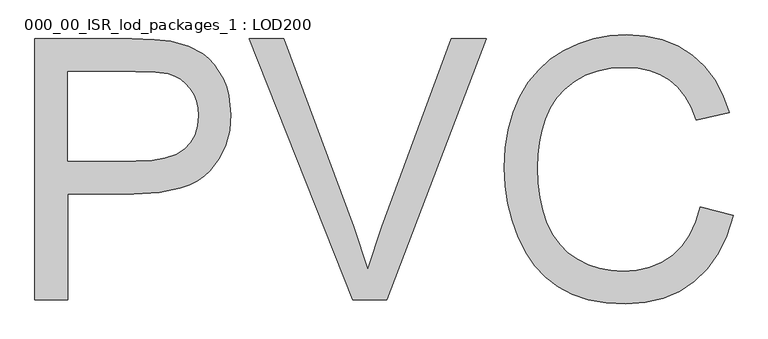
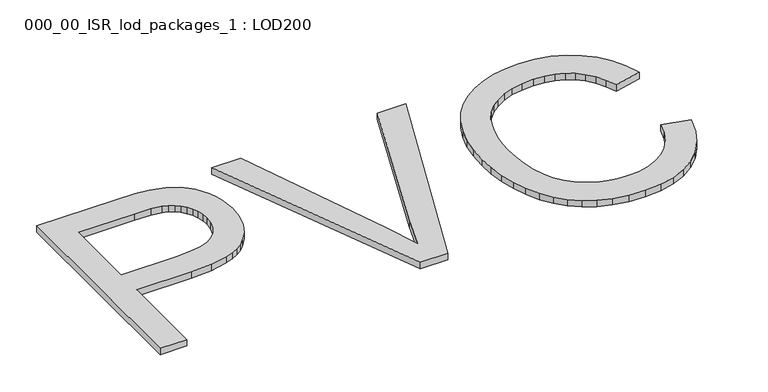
"""IFC4 building model written with IfcOpenShell, lengths in millimetres: proxy geometry, 000_00_ISR_lod_packages_1 : LOD200."""

from ifc_helpers import new_model, si_unit, origin, origin_with_axes, place, context, project, spatial, polyline, outline, extrude, source, transform, mapped, element, save


def proxy_000_00_isr_lod_packages_1_lod200_f037c82a(model_context):
    return source(origin(), model_context, "Body", "SweptSolid", [
        extrude(outline(polyline([(587.4331389, 500.0), (587.4331389, 1299.3886983), (883.6909621, 1299.3886983), (952.6811733, 1297.4858566), (1003.1308751, 1291.7773313), (1056.3860487, 1277.554809), (1100.2245952, 1254.4035677), (1118.8321919, 1239.2174268), (1135.5247492, 1221.274605), (1163.1647454, 1177.1189182), (1173.5815842, 1151.6806075), (1181.0221833, 1125.0347241), (1186.9746626, 1068.1202395), (1182.9555193, 1019.0488782), (1170.8980894, 973.9051774), (1150.8023728, 932.6891372), (1122.6683696, 895.4007575), (1104.974076, 878.842375), (1084.0443414, 864.4917768), (1059.879166, 852.3489629), (1032.4785498, 842.4139334), (967.9709947, 829.1672274), (890.5216761, 824.7516587), (687.3567262, 824.7516587), (687.3567262, 500.0), (587.4331389, 500.0)]), holes=[polyline([(687.3567262, 924.675246), (896.3765738, 924.675246), (944.4355257, 926.9684143), (984.9806922, 933.847919), (1018.0120734, 945.3137604), (1043.5296692, 961.3659382), (1062.5702844, 981.5775329), (1076.1707238, 1005.521625), (1084.3309875, 1033.1982143), (1087.0510753, 1064.6073009), (1085.4470773, 1087.92931), (1080.6350833, 1109.4948498), (1072.6150932, 1129.3039204), (1061.3871071, 1147.3565216), (1047.5488125, 1163.0671637), (1031.6978967, 1175.850357), (1013.8343599, 1185.7061015), (993.958202, 1192.6343971), (955.4134589, 1197.7574326), (894.0346147, 1199.465111), (687.3567262, 1199.465111), (687.3567262, 924.675246)])]), origin_with_axes(), (0.0, 0.0, 1.0), 25.0),
        extrude(outline(polyline([(1560.5171354, 500.0), (1242.4010275, 1299.3886983), (1349.350492, 1299.3886983), (1562.2736048, 723.4619286), (1605.4046844, 593.6783631), (1647.9502743, 723.4619286), (1861.4588769, 1299.3886983), (1968.4083414, 1299.3886983), (1663.7584981, 500.0), (1560.5171354, 500.0)])), origin_with_axes(), (0.0, 0.0, 1.0), 25.0),
        extrude(outline(polyline([(2623.37623, 784.1577014), (2723.2998173, 758.3961515), (2703.5273398, 696.2549509), (2677.1924979, 641.9568736), (2644.2952915, 595.5019198), (2604.8357206, 556.8900892), (2559.7042176, 526.536104), (2509.7912147, 504.854686), (2455.0967121, 491.8458352), (2395.6207097, 487.5095516), (2334.6870817, 490.7907338), (2279.7181308, 500.6342806), (2230.7138569, 517.0401918), (2187.67426, 540.0084676), (2150.0077515, 569.1975721), (2117.1227428, 604.2659697), (2089.0192339, 645.2136605), (2065.6972247, 692.0406443), (2047.3823729, 742.7221025), (2034.3003358, 795.2332162), (2026.4511136, 849.5739854), (2023.8347062, 905.7444101), (2026.7926493, 966.0132632), (2035.6664786, 1022.305665), (2050.4561942, 1074.6216155), (2071.1617959, 1122.9611145), (2097.3197711, 1166.5252127), (2128.4666071, 1204.5149603), (2164.6023038, 1236.9303574), (2205.7268612, 1263.771404), (2250.4436423, 1284.8185415), (2297.3560101, 1299.8522111), (2346.4639645, 1308.8724128), (2397.7675055, 1311.8791468), (2454.9198454, 1307.9880793), (2507.3272786, 1296.3148771), (2554.9898051, 1276.8595399), (2597.907425, 1249.622068), (2635.3726714, 1215.3221256), (2666.6780775, 1174.6793775), (2691.8236433, 1127.6938235), (2710.8093689, 1074.3654637), (2610.8857816, 1050.5555464), (2595.150744, 1089.8504483), (2576.2443035, 1123.4246273), (2554.1664602, 1151.2780833), (2528.9172139, 1173.4108163), (2500.3501922, 1190.2741414), (2468.3190227, 1202.3193737), (2432.8237055, 1209.546513), (2393.8642404, 1211.9555595), (2349.0376799, 1209.2842624), (2308.0411984, 1201.2703712), (2270.8747957, 1187.9138858), (2237.538472, 1169.2148063), (2208.4530479, 1146.0147742), (2184.0393443, 1119.155431), (2164.2973612, 1088.6367768), (2149.2270985, 1054.4588115), (2138.0844963, 1018.1706435), (2130.1254947, 981.3213812), (2125.3500938, 943.9110245), (2123.7582935, 905.9395734), (2125.6428387, 858.2221572), (2131.2964743, 813.6273531), (2140.7192003, 772.1551611), (2153.9110166, 733.8055812), (2171.0853832, 699.3409699), (2192.4557598, 669.5236836), (2218.0221464, 644.3537224), (2247.784543, 623.8310862), (2280.2975217, 607.9069843), (2314.1156547, 596.5326257), (2349.2389421, 589.7080106), (2385.6673836, 587.4331389), (2429.1095047, 590.5313556), (2469.0752804, 599.8260057), (2505.5647105, 615.3170891), (2538.5777951, 637.004606), (2567.3338811, 664.7909746), (2591.0523156, 698.5786134), (2609.7330986, 738.3675223), (2623.37623, 784.1577014)])), origin_with_axes(), (0.0, 0.0, 1.0), 25.0),
    ])


if __name__ == "__main__":
    model = new_model("IFC4")
    model_context = context("Model", 3, world=origin())
    ifc_project = project(units=[si_unit("LENGTHUNIT", "METRE", prefix="MILLI")], contexts=[model_context])
    site = spatial("IfcSite", under=ifc_project)
    building = spatial("IfcBuilding", under=site)
    placement = place(None, origin())
    proxy_000_00_isr_lod_packages_1_lod200_shape = proxy_000_00_isr_lod_packages_1_lod200_f037c82a(model_context)
    element("IfcBuildingElementProxy", 1, Name="000_00_ISR_lod_packages_1 : LOD200", ObjectType="000_00_ISR_lod_packages_1 : LOD200", at=placement, inside=building, context=model_context, shape_type="MappedRepresentation", body=[
        mapped(proxy_000_00_isr_lod_packages_1_lod200_shape, transform((0.0, 0.0, 0.0), x_axis=(1.0, 0.0, 0.0), y_axis=(0.0, 1.0, 0.0), z_axis=(0.0, 0.0, 1.0))),
    ])
    save(model, "model.ifc")
